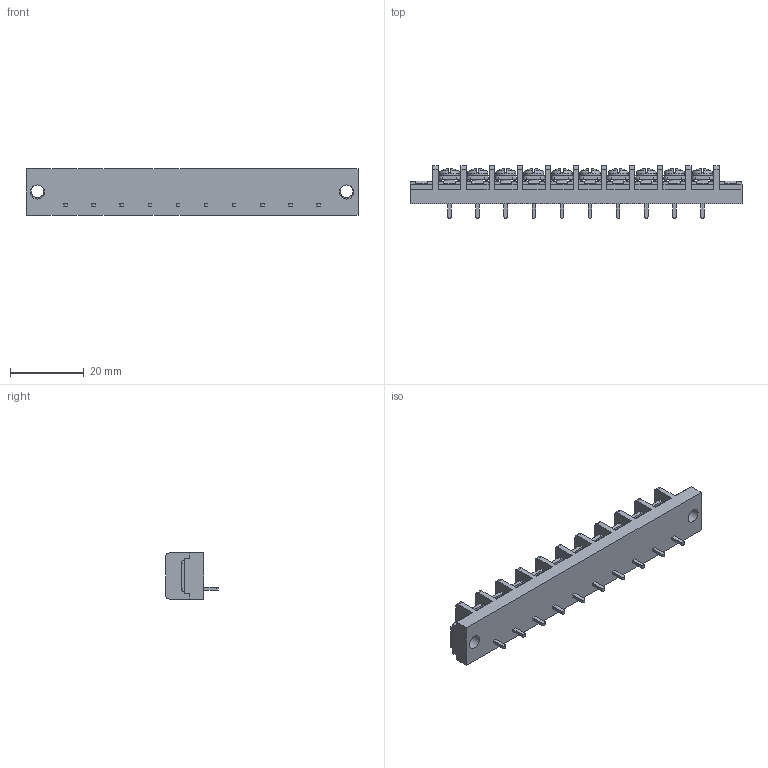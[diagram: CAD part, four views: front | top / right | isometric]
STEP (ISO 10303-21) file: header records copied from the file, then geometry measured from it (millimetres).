
FILE_DESCRIPTION(/* description */ ('Alibre Inc.'),/* implementation_level */ '2;1');
FILE_NAME(/* name */ 'export0',/* time_stamp */ '2015-10-26T17:35:26+09:00',/* author */ (''),/* organization */ (''),/* preprocessor_version */ 'ST-DEVELOPER v14',/* originating_system */ 'Alibre',/* authorisation */ '');
FILE_SCHEMA (('CONFIG_CONTROL_DESIGN'));
Length unit declared in the file: centimetre
Products named in the file (1): ID_1
Bounding box: 90.02 x 14.3 x 12.5 mm (x, y, z)
Volume: 7750.9 mm3; surface area: 6978 mm2
Topology: 1 solids, 17 shells, 1416 faces, 3866 edges, 2546 vertices
Faces by surface type: plane 1102, cylinder 130, bspline 104, cone 40, torus 20, sphere 20
Full cylindrical faces by diameter (mm): 3 x10, 3.5 x2, 3.8 x2, 5.5 x10
Entity records: 42375 total; most frequent: CARTESIAN_POINT 9339, ORIENTED_EDGE 7556, DIRECTION 5252, EDGE_CURVE 3778, VECTOR 2696, LINE 2696, VERTEX_POINT 2502, AXIS2_PLACEMENT_3D 1773
